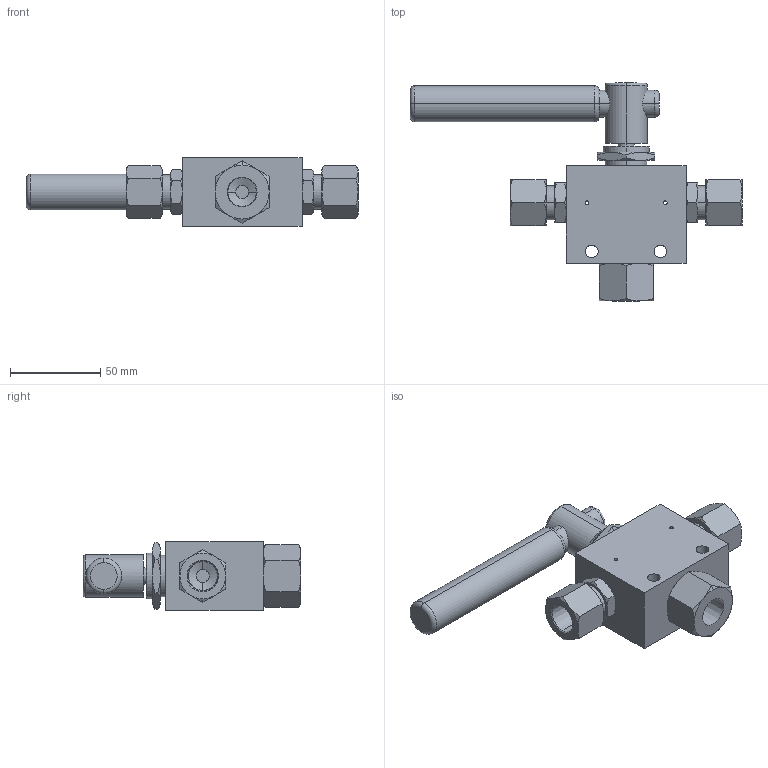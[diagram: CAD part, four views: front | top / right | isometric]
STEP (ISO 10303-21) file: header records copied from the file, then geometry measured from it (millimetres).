
FILE_DESCRIPTION (( 'STEP AP203' ), '1' );
FILE_NAME ('BVP03S06-3-180.STEP', '2022-04-12T10:49:05', ( '' ), ( '' ), 'SwSTEP 2.0', 'SolidWorks 2020', '' );
FILE_SCHEMA (( 'CONFIG_CONTROL_DESIGN' ));
Length unit declared in the file: millimetre
Products named in the file (1): BVP03S06-3-180
Bounding box: 184.33 x 121 x 38 mm (x, y, z)
Volume: 224629.7 mm3; surface area: 42027.4 mm2
Topology: 1 solids, 1 shells, 209 faces, 454 edges, 262 vertices
Faces by surface type: cone 106, plane 59, cylinder 36, torus 8
Entity records: 6361 total; most frequent: CARTESIAN_POINT 1910, DIRECTION 906, ORIENTED_EDGE 900, EDGE_CURVE 450, AXIS2_PLACEMENT_3D 394, VERTEX_POINT 262, EDGE_LOOP 236, FACE_OUTER_BOUND 209
